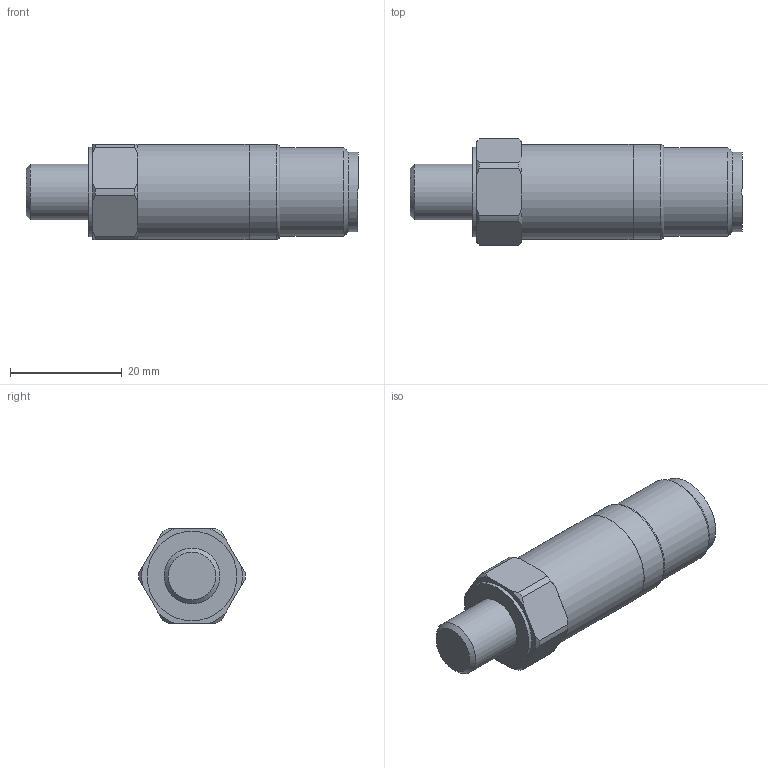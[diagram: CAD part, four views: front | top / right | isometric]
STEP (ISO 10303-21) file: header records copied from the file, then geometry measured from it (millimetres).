
FILE_DESCRIPTION(/* description */ (''),/* implementation_level */ '2;1');
FILE_NAME(/* name */ 'Z:\Engineering\Drawings\3D Library\Assemblies\Website\Premium Top\Compact\HS-170 Top 2 Pin MS\HS-1700105010.stp',/* time_stamp */ '2023-03-16T16:37:05+00:00',/* author */ ('Ricardo.Peneda'),/* organization */ (''),/* preprocessor_version */ 'ST-DEVELOPER v18.1',/* originating_system */ 'Autodesk Inventor 2021',/* authorisation */ '');
FILE_SCHEMA (('AUTOMOTIVE_DESIGN { 1 0 10303 214 3 1 1 }'));
Length unit declared in the file: inch
Products named in the file (1): HS-1700105010_Shrinkwrap_1
Bounding box: 59.4 x 19 x 17 mm (x, y, z)
Volume: 6453.1 mm3; surface area: 5811.5 mm2
Topology: 3 solids, 3 shells, 64 faces, 164 edges, 114 vertices
Faces by surface type: plane 26, cylinder 20, cone 17, torus 1
Full cylindrical faces by diameter (mm): 5 x1, 5.359 x1, 6.35 x1, 7 x1, 10 x1, 10.4 x1, 11.5 x1, 14.2 x1, 15.05 x1, 15.5 x1, 15.9 x1, 16 x1, 16.9 x1, 17 x1
Entity records: 2086 total; most frequent: CARTESIAN_POINT 390, DIRECTION 359, ORIENTED_EDGE 326, EDGE_CURVE 163, AXIS2_PLACEMENT_3D 155, VERTEX_POINT 114, CIRCLE 90, EDGE_LOOP 73
